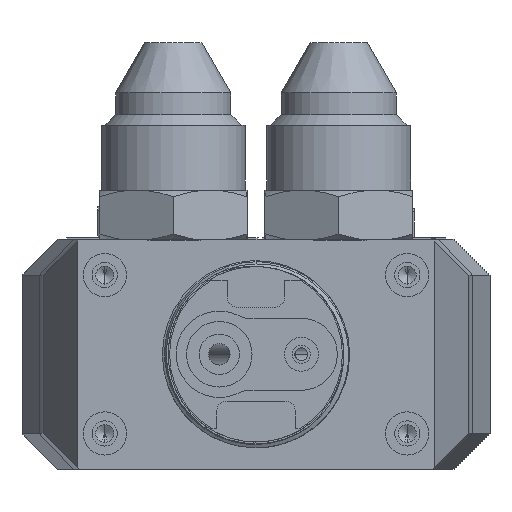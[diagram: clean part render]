
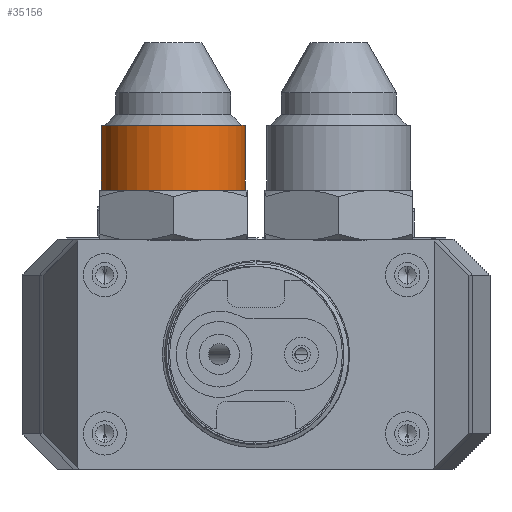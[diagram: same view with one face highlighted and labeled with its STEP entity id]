
A CAD part, front view. The second image highlights one B-rep face of the part: STEP entity #35156.
In plain terms, the highlighted cylindrical face has radius 10 mm (diameter 20 mm), a partial arc.
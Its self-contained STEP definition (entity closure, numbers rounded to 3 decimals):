
#269 = DIRECTION ( 'NONE',  ( 1., 0., 0. ) ) ;
#299 = VERTEX_POINT ( 'NONE', #33678 ) ;
#468 = DIRECTION ( 'NONE',  ( 1., 0., 0. ) ) ;
#591 = VERTEX_POINT ( 'NONE', #44018 ) ;
#1867 = DIRECTION ( 'NONE',  ( 0., 0., 1. ) ) ;
#4632 = CARTESIAN_POINT ( 'NONE',  ( -94.455, -144.23, 1030.303 ) ) ;
#4703 = CARTESIAN_POINT ( 'NONE',  ( -84.455, -144.23, 1052.575 ) ) ;
#6484 = EDGE_CURVE ( 'NONE', #16715, #9972, #48930, .T. ) ;
#6972 = LINE ( 'NONE', #23127, #30470 ) ;
#8013 = EDGE_CURVE ( 'NONE', #299, #9972, #6972, .T. ) ;
#9972 = VERTEX_POINT ( 'NONE', #4632 ) ;
#12785 = CIRCLE ( 'NONE', #33951, 10. ) ;
#15005 = ORIENTED_EDGE ( 'NONE', *, *, #8013, .F. ) ;
#16061 = VECTOR ( 'NONE', #21891, 1000. ) ;
#16715 = VERTEX_POINT ( 'NONE', #42345 ) ;
#17643 = CARTESIAN_POINT ( 'NONE',  ( -74.455, -144.23, 1052.575 ) ) ;
#20106 = FACE_OUTER_BOUND ( 'NONE', #25663, .T. ) ;
#21091 = EDGE_CURVE ( 'NONE', #591, #16715, #37792, .T. ) ;
#21891 = DIRECTION ( 'NONE',  ( 0., 0., 1. ) ) ;
#23127 = CARTESIAN_POINT ( 'NONE',  ( -94.455, -144.23, 1052.575 ) ) ;
#24286 = ORIENTED_EDGE ( 'NONE', *, *, #21091, .T. ) ;
#24629 = DIRECTION ( 'NONE',  ( 0., 0., 1. ) ) ;
#25663 = EDGE_LOOP ( 'NONE', ( #15005, #52262, #24286, #31687 ) ) ;
#26535 = CARTESIAN_POINT ( 'NONE',  ( -84.455, -144.23, 1021.303 ) ) ;
#30470 = VECTOR ( 'NONE', #39301, 1000. ) ;
#31687 = ORIENTED_EDGE ( 'NONE', *, *, #6484, .T. ) ;
#32360 = CARTESIAN_POINT ( 'NONE',  ( -84.455, -144.23, 1030.303 ) ) ;
#33678 = CARTESIAN_POINT ( 'NONE',  ( -94.455, -144.23, 1021.303 ) ) ;
#33951 = AXIS2_PLACEMENT_3D ( 'NONE', #26535, #1867, #37925 ) ;
#35156 = ADVANCED_FACE ( 'NONE', ( #20106 ), #52183, .T. ) ;
#35561 = AXIS2_PLACEMENT_3D ( 'NONE', #4703, #24629, #468 ) ;
#37792 = LINE ( 'NONE', #17643, #16061 ) ;
#37925 = DIRECTION ( 'NONE',  ( 1., 0., 0. ) ) ;
#39301 = DIRECTION ( 'NONE',  ( 0., 0., 1. ) ) ;
#41285 = AXIS2_PLACEMENT_3D ( 'NONE', #32360, #43780, #269 ) ;
#42345 = CARTESIAN_POINT ( 'NONE',  ( -74.455, -144.23, 1030.303 ) ) ;
#43780 = DIRECTION ( 'NONE',  ( 0., 0., -1. ) ) ;
#44018 = CARTESIAN_POINT ( 'NONE',  ( -74.455, -144.23, 1021.303 ) ) ;
#48930 = CIRCLE ( 'NONE', #41285, 10. ) ;
#49540 = EDGE_CURVE ( 'NONE', #299, #591, #12785, .T. ) ;
#52183 = CYLINDRICAL_SURFACE ( 'NONE', #35561, 10. ) ;
#52262 = ORIENTED_EDGE ( 'NONE', *, *, #49540, .T. ) ;
